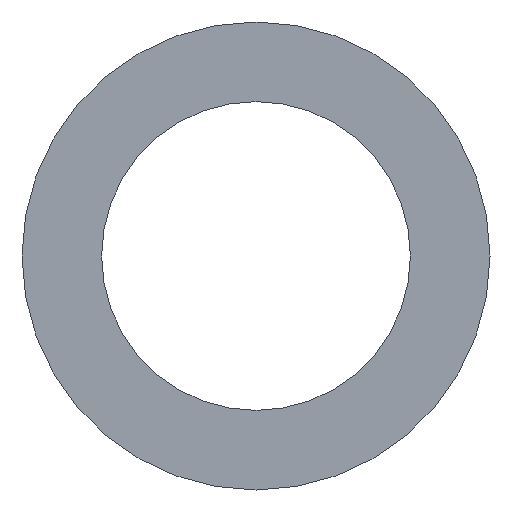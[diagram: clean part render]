
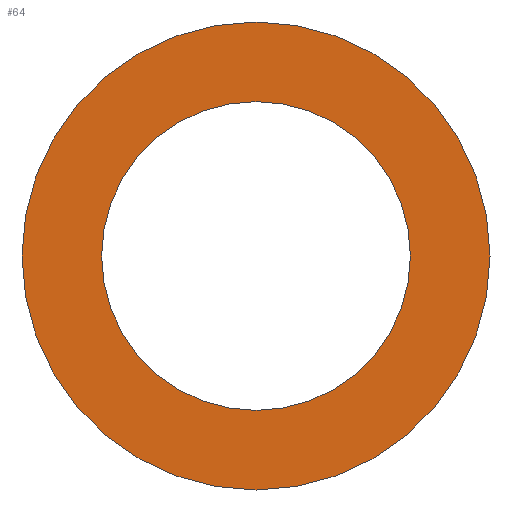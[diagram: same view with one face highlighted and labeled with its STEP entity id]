
A CAD part, front view. The second image highlights one B-rep face of the part: STEP entity #64.
In plain terms, the highlighted planar face has unit normal (0, -1, 0).
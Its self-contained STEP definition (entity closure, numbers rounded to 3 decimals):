
#16=FACE_BOUND('',#28,.T.);
#18=PLANE('',#95);
#22=FACE_OUTER_BOUND('',#27,.T.);
#27=EDGE_LOOP('',(#57));
#28=EDGE_LOOP('',(#58));
#34=CIRCLE('',#90,3.3);
#36=CIRCLE('',#93,5.);
#38=VERTEX_POINT('',#120);
#40=VERTEX_POINT('',#126);
#43=EDGE_CURVE('',#38,#38,#34,.T.);
#46=EDGE_CURVE('',#40,#40,#36,.T.);
#57=ORIENTED_EDGE('',*,*,#46,.F.);
#58=ORIENTED_EDGE('',*,*,#43,.F.);
#64=ADVANCED_FACE('',(#22,#16),#18,.F.);
#90=AXIS2_PLACEMENT_3D('',#122,#103,#104);
#93=AXIS2_PLACEMENT_3D('',#128,#110,#111);
#95=AXIS2_PLACEMENT_3D('',#130,#114,#115);
#103=DIRECTION('center_axis',(0.,-1.,0.));
#104=DIRECTION('ref_axis',(1.,0.,0.));
#110=DIRECTION('center_axis',(0.,1.,0.));
#111=DIRECTION('ref_axis',(-1.,0.,0.));
#114=DIRECTION('center_axis',(0.,1.,0.));
#115=DIRECTION('ref_axis',(0.,0.,1.));
#120=CARTESIAN_POINT('',(-3.3,0.,0.));
#122=CARTESIAN_POINT('Origin',(0.,0.,0.));
#126=CARTESIAN_POINT('',(5.,0.,0.));
#128=CARTESIAN_POINT('Origin',(0.,0.,0.));
#130=CARTESIAN_POINT('Origin',(0.,0.,0.));
